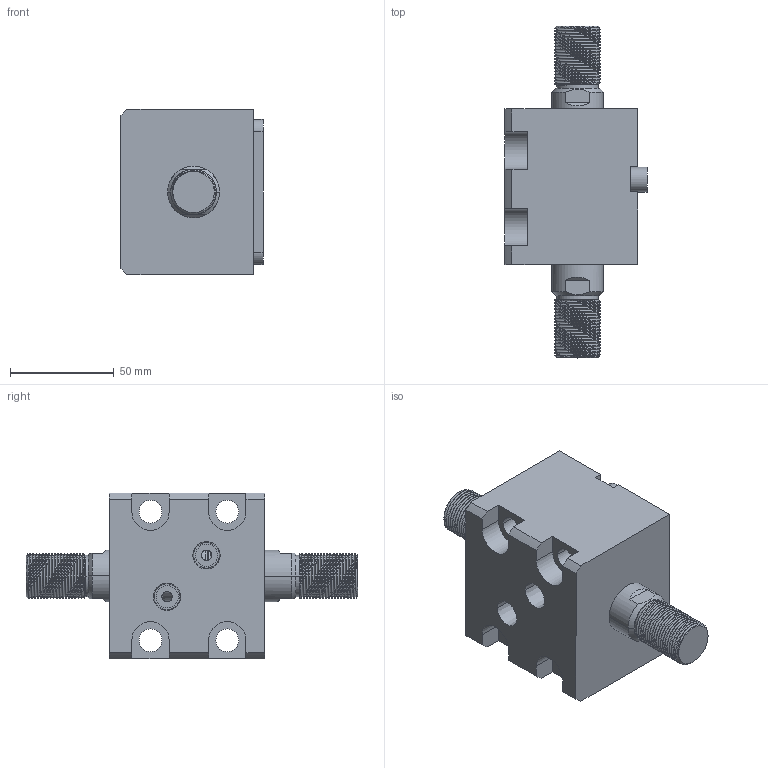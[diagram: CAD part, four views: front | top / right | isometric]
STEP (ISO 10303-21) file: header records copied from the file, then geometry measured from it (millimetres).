
FILE_DESCRIPTION (( 'STEP AP214' ), '1' );
FILE_NAME ('chtb-lw40x5w_asm.STEP', '2018-06-04T01:34:51', ( 'Windows' ), ( 'Microsoft' ), 'SwSTEP 2.0', 'SolidWorks 2015', '' );
FILE_SCHEMA (( 'AUTOMOTIVE_DESIGN' ));
Length unit declared in the file: millimetre
Products named in the file (5): CHTB-SW40X5NHSG; CHTB-SD40QG; CHTB-LW40X5NBT; CHTB-LA40PJ; chtb-lw40x5w_asm
Assembly tree (4 placements, depth 2):
  chtb-lw40x5w_asm
    CHTB-LA40PJ
    CHTB-LW40X5NBT
    CHTB-SD40QG
    CHTB-SW40X5NHSG
Bounding box: 68.5 x 160 x 80 mm (x, y, z)
Volume: 377719.6 mm3; surface area: 80018.2 mm2
Topology: 4 solids, 4 shells, 261 faces, 722 edges, 480 vertices
Faces by surface type: cylinder 154, plane 59, cone 18, bspline 18, torus 12
Entity records: 17869 total; most frequent: CARTESIAN_POINT 11549, ORIENTED_EDGE 1432, DIRECTION 1135, EDGE_CURVE 716, VERTEX_POINT 480, AXIS2_PLACEMENT_3D 438, EDGE_LOOP 294, FACE_OUTER_BOUND 261
